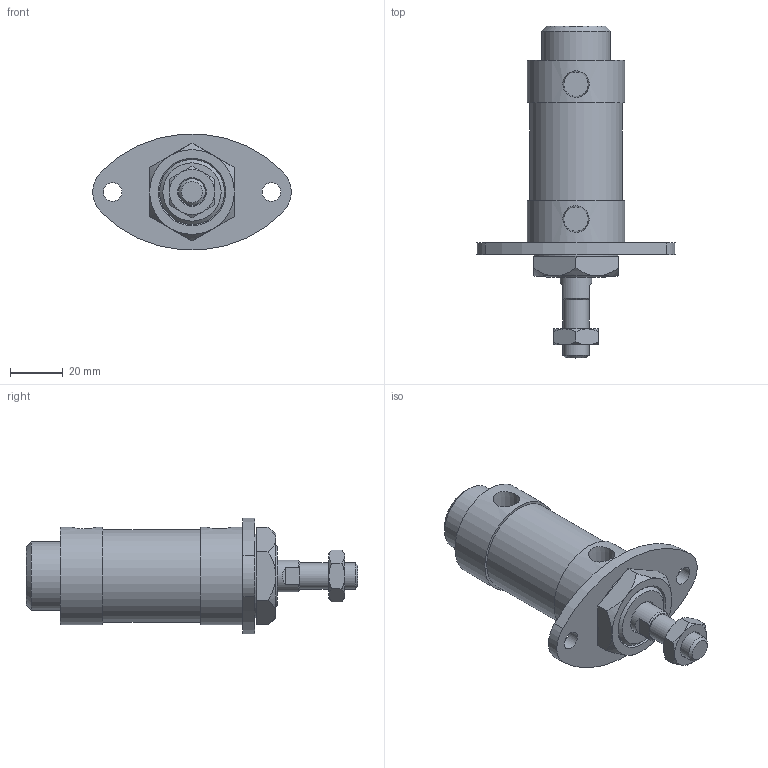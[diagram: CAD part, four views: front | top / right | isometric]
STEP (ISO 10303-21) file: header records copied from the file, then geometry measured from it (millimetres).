
FILE_DESCRIPTION(/* description */ ('Unknown'),/* implementation_level */ '2;1');
FILE_NAME(/* name */ 'WK30-FA',/* time_stamp */ '2026-07-17T16:32:33+08:00',/* author */ ('Unknown'),/* organization */ ('Unknown'),/* preprocessor_version */ 'ST-DEVELOPER v16.7',/* originating_system */ 'DEX',/* authorisation */ $);
FILE_SCHEMA (('CONFIG_CONTROL_DESIGN'));
Length unit declared in the file: millimetre
Products named in the file (8): WK30-FA; WK30_玡嶈搵; WK30_鋁; WK30_後; WK30_心軸活; M26-1.5P-8_螺; WK25_WK30_FA; M10-1.25P-6_螺
Assembly tree (7 placements, depth 2):
  WK30-FA
    WK30_玡嶈搵
    WK30_鋁
    WK30_後
    WK30_心軸活
    M26-1.5P-8_螺
    WK25_WK30_FA
    M10-1.25P-6_螺
Bounding box: 74.92 x 125.5 x 43.63 mm (x, y, z)
Volume: 98806.4 mm3; surface area: 35295.3 mm2
Topology: 7 solids, 7 shells, 99 faces, 215 edges, 136 vertices
Faces by surface type: plane 45, cone 32, cylinder 22
Full cylindrical faces by diameter (mm): 7 x2, 8.75 x1, 10 x1, 12 x2, 24.5 x1, 26 x3, 29.5 x1, 30 x1, 32 x3, 35 x1, 37 x2
Entity records: 3267 total; most frequent: CARTESIAN_POINT 567, DIRECTION 422, ORIENTED_EDGE 330, AXIS2_PLACEMENT_3D 192, EDGE_CURVE 165, EDGE_LOOP 150, FACE_BOUND 150, VERTEX_POINT 117
